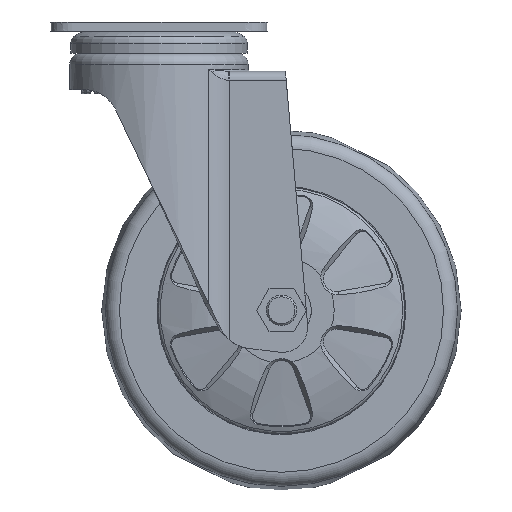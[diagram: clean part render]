
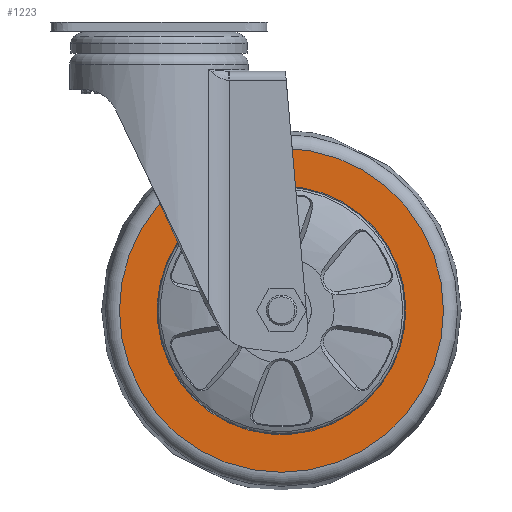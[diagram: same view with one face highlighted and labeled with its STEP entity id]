
A CAD part, front view. The second image highlights one B-rep face of the part: STEP entity #1223.
In plain terms, the highlighted planar face has unit normal (0, -1, 0).
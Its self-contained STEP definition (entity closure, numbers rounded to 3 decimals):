
#563=FACE_BOUND('',#2963,.T.);
#564=FACE_BOUND('',#2964,.T.);
#839=CIRCLE('',#13346,34.495);
#840=CIRCLE('',#13347,44.969);
#1223=ADVANCED_FACE('',(#563,#564),#1982,.F.);
#1982=PLANE('',#13348);
#2963=EDGE_LOOP('',(#4896));
#2964=EDGE_LOOP('',(#4897));
#4896=ORIENTED_EDGE('',*,*,#10217,.F.);
#4897=ORIENTED_EDGE('',*,*,#10218,.T.);
#8868=VERTEX_POINT('',#18064);
#8869=VERTEX_POINT('',#18066);
#10217=EDGE_CURVE('',#8868,#8868,#839,.T.);
#10218=EDGE_CURVE('',#8869,#8869,#840,.T.);
#13346=AXIS2_PLACEMENT_3D('',#18063,#14407,#14408);
#13347=AXIS2_PLACEMENT_3D('',#18065,#14409,#14410);
#13348=AXIS2_PLACEMENT_3D('',#18067,#14411,#14412);
#14407=DIRECTION('',(0.,-1.,0.));
#14408=DIRECTION('',(0.,0.,1.));
#14409=DIRECTION('',(0.,-1.,0.));
#14410=DIRECTION('',(0.,0.,1.));
#14411=DIRECTION('',(0.,1.,0.));
#14412=DIRECTION('',(0.,0.,-1.));
#18063=CARTESIAN_POINT('',(34.,-12.778,-80.));
#18064=CARTESIAN_POINT('',(34.,-12.778,-45.505));
#18065=CARTESIAN_POINT('',(34.,-12.778,-80.));
#18066=CARTESIAN_POINT('',(34.,-12.778,-35.031));
#18067=CARTESIAN_POINT('',(34.,-12.778,-80.));
